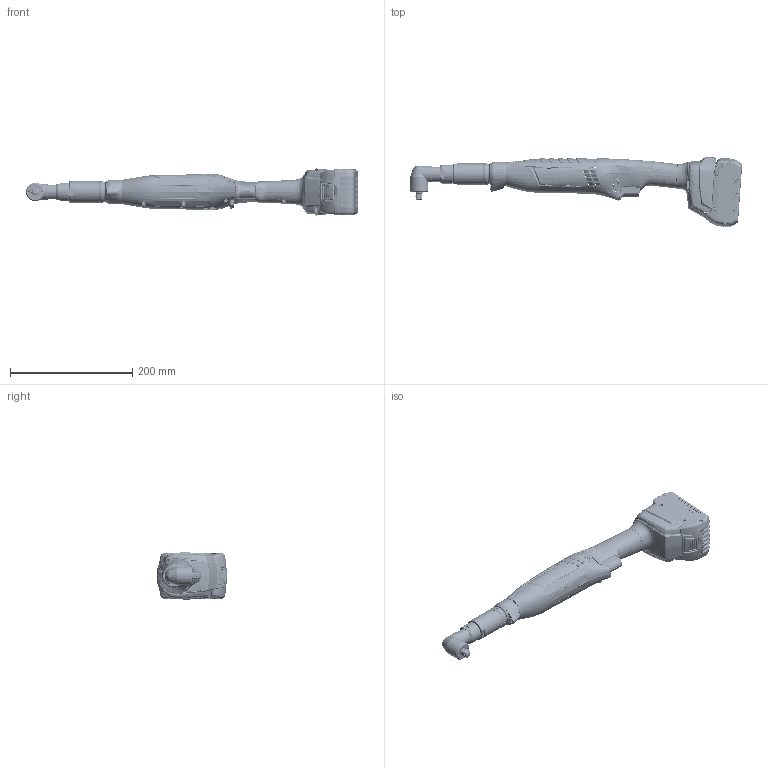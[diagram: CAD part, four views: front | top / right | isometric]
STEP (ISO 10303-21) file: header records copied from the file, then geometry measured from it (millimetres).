
FILE_DESCRIPTION((''),'2;1');
FILE_NAME('AWAS_30-300_XL_WK_SW0001','2011-06-29T',('lem2mt'),(''),'PRO/ENGINEER BY PARAMETRIC TECHNOLOGY CORPORATION, 2009380','PRO/ENGINEER BY PARAMETRIC TECHNOLOGY CORPORATION, 2009380','');
FILE_SCHEMA(('AUTOMOTIVE_DESIGN_CC2 { 1 2 10303 214 -1 1 5 2 }'));
Length unit declared in the file: millimetre
Products named in the file (1): AWAS_30-300_XL_WK_SW0001
Bounding box: 542.95 x 114.18 x 77.09 mm (x, y, z)
Volume: 422539.9 mm3; surface area: 358459.3 mm2
Topology: 5 solids, 7 shells, 15204 faces, 39990 edges, 24833 vertices
Faces by surface type: plane 5404, bspline 4445, cylinder 3369, cone 985, sphere 435, torus 417, extrusion 149
Entity records: 1130581 total; most frequent: CARTESIAN_POINT 531343, ORIENTED_EDGE 79884, PRESENTATION_STYLE_ASSIGNMENT 55300, DIRECTION 52942, STYLED_ITEM 40096, CURVE_STYLE 40091, EDGE_CURVE 39942, VERTEX_POINT 24833
